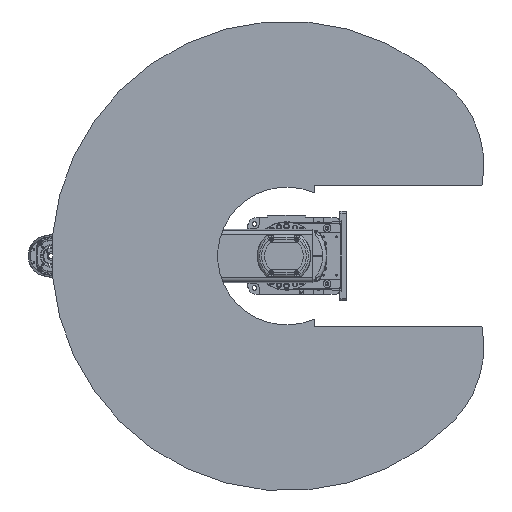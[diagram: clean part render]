
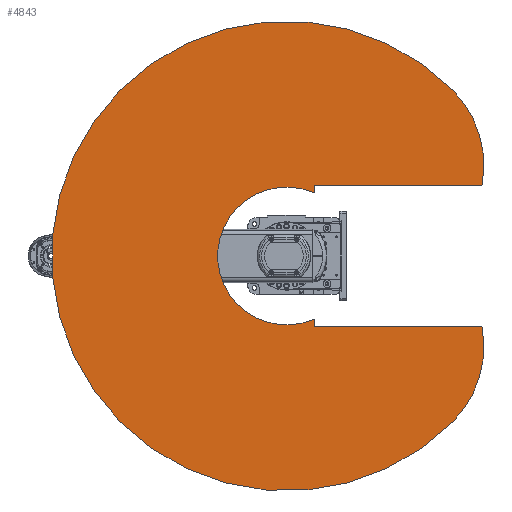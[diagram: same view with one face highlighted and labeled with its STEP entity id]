
A CAD part, front view. The second image highlights one B-rep face of the part: STEP entity #4843.
In plain terms, the highlighted planar face has unit normal (0, -1, 0).
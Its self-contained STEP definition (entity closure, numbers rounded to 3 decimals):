
#4843 = ADVANCED_FACE( '', ( #11748 ), #11749, .F. );
#11748 = FACE_OUTER_BOUND( '', #21279, .T. );
#11749 = PLANE( '', #21280 );
#21279 = EDGE_LOOP( '', ( #35806, #35807, #35808, #35809, #35810, #35811, #35812, #35813 ) );
#21280 = AXIS2_PLACEMENT_3D( '', #35814, #35815, #35816 );
#35806 = ORIENTED_EDGE( '', *, *, #54756, .T. );
#35807 = ORIENTED_EDGE( '', *, *, #50478, .F. );
#35808 = ORIENTED_EDGE( '', *, *, #54757, .F. );
#35809 = ORIENTED_EDGE( '', *, *, #53243, .F. );
#35810 = ORIENTED_EDGE( '', *, *, #54758, .T. );
#35811 = ORIENTED_EDGE( '', *, *, #54759, .T. );
#35812 = ORIENTED_EDGE( '', *, *, #54760, .T. );
#35813 = ORIENTED_EDGE( '', *, *, #54372, .T. );
#35814 = CARTESIAN_POINT( '', ( 106.066, 0., 106.066 ) );
#35815 = DIRECTION( '', ( 0., 1., 0. ) );
#35816 = DIRECTION( '', ( 0., 0., 1. ) );
#50478 = EDGE_CURVE( '', #59193, #59189, #59195, .T. );
#53243 = EDGE_CURVE( '', #63930, #63933, #63934, .T. );
#54372 = EDGE_CURVE( '', #65729, #65727, #65730, .T. );
#54756 = EDGE_CURVE( '', #65727, #59189, #66307, .T. );
#54757 = EDGE_CURVE( '', #63933, #59193, #66308, .T. );
#54758 = EDGE_CURVE( '', #63930, #66309, #66310, .T. );
#54759 = EDGE_CURVE( '', #66309, #66311, #66312, .T. );
#54760 = EDGE_CURVE( '', #66311, #65729, #66313, .T. );
#59189 = VERTEX_POINT( '', #72077 );
#59193 = VERTEX_POINT( '', #72082 );
#59195 = CIRCLE( '', #72085, 250. );
#63930 = VERTEX_POINT( '', #80128 );
#63933 = VERTEX_POINT( '', #80132 );
#63934 = CIRCLE( '', #80133, 250. );
#65727 = VERTEX_POINT( '', #83074 );
#65729 = VERTEX_POINT( '', #83077 );
#65730 = LINE( '', #83078, #83079 );
#66307 = LINE( '', #84038, #84039 );
#66308 = CIRCLE( '', #84040, 550. );
#66309 = VERTEX_POINT( '', #84041 );
#66310 = LINE( '', #84042, #84043 );
#66311 = VERTEX_POINT( '', #84044 );
#66312 = LINE( '', #84045, #84046 );
#66313 = CIRCLE( '', #84047, 161.22 );
#72077 = CARTESIAN_POINT( '', ( -165., 0., 457.649 ) );
#72082 = CARTESIAN_POINT( '', ( -388.909, 0., 388.909 ) );
#72085 = AXIS2_PLACEMENT_3D( '', #93305, #93306, #93307 );
#80128 = CARTESIAN_POINT( '', ( 165., 0., 457.649 ) );
#80132 = CARTESIAN_POINT( '', ( 388.909, 0., 388.909 ) );
#80133 = AXIS2_PLACEMENT_3D( '', #96797, #96798, #96799 );
#83074 = CARTESIAN_POINT( '', ( -165., 0., 65. ) );
#83077 = CARTESIAN_POINT( '', ( -147.536, 0., 65. ) );
#83078 = CARTESIAN_POINT( '', ( 165., 0., 65. ) );
#83079 = VECTOR( '', #98294, 1000. );
#84038 = CARTESIAN_POINT( '', ( -165., 0., 65. ) );
#84039 = VECTOR( '', #98743, 1000. );
#84040 = AXIS2_PLACEMENT_3D( '', #98744, #98745, #98746 );
#84041 = CARTESIAN_POINT( '', ( 165., 0., 65. ) );
#84042 = CARTESIAN_POINT( '', ( 165., 0., 565. ) );
#84043 = VECTOR( '', #98747, 1000. );
#84044 = CARTESIAN_POINT( '', ( 147.536, 0., 65. ) );
#84045 = CARTESIAN_POINT( '', ( 165., 0., 65. ) );
#84046 = VECTOR( '', #98748, 1000. );
#84047 = AXIS2_PLACEMENT_3D( '', #98749, #98750, #98751 );
#93305 = CARTESIAN_POINT( '', ( -212.132, 0., 212.132 ) );
#93306 = DIRECTION( '', ( 0., 1., 0. ) );
#93307 = DIRECTION( '', ( 1., 0., 0. ) );
#96797 = CARTESIAN_POINT( '', ( 212.132, 0., 212.132 ) );
#96798 = DIRECTION( '', ( 0., 1., 0. ) );
#96799 = DIRECTION( '', ( 1., 0., 0. ) );
#98294 = DIRECTION( '', ( -1., 0., 0. ) );
#98743 = DIRECTION( '', ( 0., 0., 1. ) );
#98744 = CARTESIAN_POINT( '', ( 0., 0., 0. ) );
#98745 = DIRECTION( '', ( 0., 1., 0. ) );
#98746 = DIRECTION( '', ( 1., 0., 0. ) );
#98747 = DIRECTION( '', ( 0., 0., -1. ) );
#98748 = DIRECTION( '', ( -1., 0., 0. ) );
#98749 = CARTESIAN_POINT( '', ( 0., 0., 0. ) );
#98750 = DIRECTION( '', ( 0., 1., 0. ) );
#98751 = DIRECTION( '', ( 1., 0., 0. ) );
